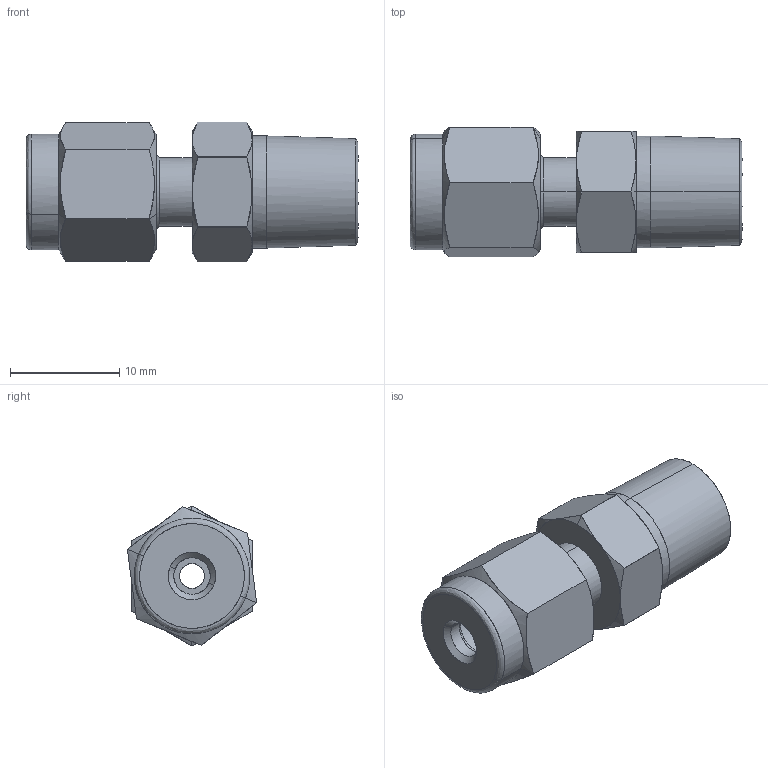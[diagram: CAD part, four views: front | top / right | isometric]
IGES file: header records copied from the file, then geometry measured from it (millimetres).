
Start section: Comment
Global section: file name: SMC2-2N.igs; native system:  By UGS Corp.; preprocessor: XPlus GENERIC/IGES 3.0; author: Author; organization: Title; date: 20100113.152115; units: millimetre
Bounding box: 30.44 x 11.86 x 12.82 mm (x, y, z)
Surface area: 1921.1 mm2 (no closed solid volume)
Topology: 0 solids, 0 shells, 77 faces, 342 edges, 342 vertices
Faces by surface type: bspline 77
